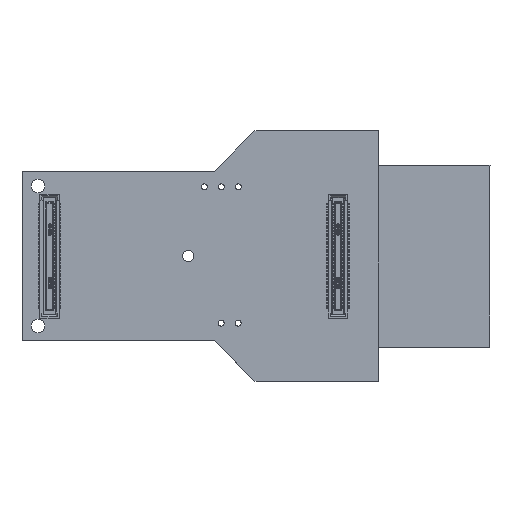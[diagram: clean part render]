
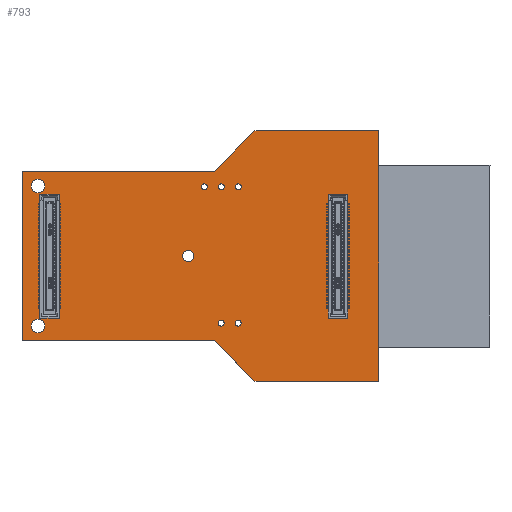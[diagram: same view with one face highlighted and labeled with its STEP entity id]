
A CAD part, top view. The second image highlights one B-rep face of the part: STEP entity #793.
In plain terms, the highlighted planar face has unit normal (0, 0, 1).
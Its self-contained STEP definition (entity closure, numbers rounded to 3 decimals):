
#248 = VERTEX_POINT('',#249);
#249 = CARTESIAN_POINT('',(-53.4,6.05,1.618));
#255 = EDGE_CURVE('',#248,#256,#258,.T.);
#256 = VERTEX_POINT('',#257);
#257 = CARTESIAN_POINT('',(-53.399,31.451,1.618));
#258 = LINE('',#259,#260);
#259 = CARTESIAN_POINT('',(-53.4,6.05,1.618));
#260 = VECTOR('',#261,1.);
#261 = DIRECTION('',(0.,1.,0.));
#286 = EDGE_CURVE('',#256,#287,#289,.T.);
#287 = VERTEX_POINT('',#288);
#288 = CARTESIAN_POINT('',(-24.549,31.451,1.618));
#289 = LINE('',#290,#291);
#290 = CARTESIAN_POINT('',(-53.399,31.451,1.618));
#291 = VECTOR('',#292,1.);
#292 = DIRECTION('',(1.,0.,0.));
#317 = EDGE_CURVE('',#287,#318,#320,.T.);
#318 = VERTEX_POINT('',#319);
#319 = CARTESIAN_POINT('',(-18.5,37.5,1.618));
#320 = LINE('',#321,#322);
#321 = CARTESIAN_POINT('',(-24.549,31.451,1.618));
#322 = VECTOR('',#323,1.);
#323 = DIRECTION('',(0.707,0.707,0.));
#348 = EDGE_CURVE('',#318,#349,#351,.T.);
#349 = VERTEX_POINT('',#350);
#350 = CARTESIAN_POINT('',(0.,37.5,1.618));
#351 = LINE('',#352,#353);
#352 = CARTESIAN_POINT('',(-18.5,37.5,1.618));
#353 = VECTOR('',#354,1.);
#354 = DIRECTION('',(1.,0.,0.));
#379 = EDGE_CURVE('',#349,#380,#382,.T.);
#380 = VERTEX_POINT('',#381);
#381 = CARTESIAN_POINT('',(0.,0.,1.618));
#382 = LINE('',#383,#384);
#383 = CARTESIAN_POINT('',(0.,37.5,1.618));
#384 = VECTOR('',#385,1.);
#385 = DIRECTION('',(0.,-1.,0.));
#410 = EDGE_CURVE('',#380,#411,#413,.T.);
#411 = VERTEX_POINT('',#412);
#412 = CARTESIAN_POINT('',(-18.5,0.,1.618));
#413 = LINE('',#414,#415);
#414 = CARTESIAN_POINT('',(0.,0.,1.618));
#415 = VECTOR('',#416,1.);
#416 = DIRECTION('',(-1.,0.,0.));
#441 = EDGE_CURVE('',#411,#442,#444,.T.);
#442 = VERTEX_POINT('',#443);
#443 = CARTESIAN_POINT('',(-24.55,6.05,1.618));
#444 = LINE('',#445,#446);
#445 = CARTESIAN_POINT('',(-18.5,0.,1.618));
#446 = VECTOR('',#447,1.);
#447 = DIRECTION('',(-0.707,0.707,0.));
#472 = EDGE_CURVE('',#442,#248,#473,.T.);
#473 = LINE('',#474,#475);
#474 = CARTESIAN_POINT('',(-24.55,6.05,1.618));
#475 = VECTOR('',#476,1.);
#476 = DIRECTION('',(-1.,0.,0.));
#496 = VERTEX_POINT('',#497);
#497 = CARTESIAN_POINT('',(-50.,8.25,1.618));
#503 = EDGE_CURVE('',#496,#496,#504,.T.);
#504 = CIRCLE('',#505,1.);
#505 = AXIS2_PLACEMENT_3D('',#506,#507,#508);
#506 = CARTESIAN_POINT('',(-51.,8.25,1.618));
#507 = DIRECTION('',(0.,0.,1.));
#508 = DIRECTION('',(1.,0.,-0.));
#529 = VERTEX_POINT('',#530);
#530 = CARTESIAN_POINT('',(-27.65,18.75,1.618));
#536 = EDGE_CURVE('',#529,#529,#537,.T.);
#537 = CIRCLE('',#538,0.85);
#538 = AXIS2_PLACEMENT_3D('',#539,#540,#541);
#539 = CARTESIAN_POINT('',(-28.5,18.75,1.618));
#540 = DIRECTION('',(0.,0.,1.));
#541 = DIRECTION('',(1.,0.,-0.));
#562 = VERTEX_POINT('',#563);
#563 = CARTESIAN_POINT('',(-50.,29.25,1.618));
#569 = EDGE_CURVE('',#562,#562,#570,.T.);
#570 = CIRCLE('',#571,1.);
#571 = AXIS2_PLACEMENT_3D('',#572,#573,#574);
#572 = CARTESIAN_POINT('',(-51.,29.25,1.618));
#573 = DIRECTION('',(0.,0.,1.));
#574 = DIRECTION('',(1.,0.,-0.));
#595 = VERTEX_POINT('',#596);
#596 = CARTESIAN_POINT('',(-25.63,29.1,1.618));
#602 = EDGE_CURVE('',#595,#595,#603,.T.);
#603 = CIRCLE('',#604,0.45);
#604 = AXIS2_PLACEMENT_3D('',#605,#606,#607);
#605 = CARTESIAN_POINT('',(-26.08,29.1,1.618));
#606 = DIRECTION('',(0.,0.,1.));
#607 = DIRECTION('',(1.,0.,-0.));
#628 = VERTEX_POINT('',#629);
#629 = CARTESIAN_POINT('',(-23.12,8.7,1.618));
#635 = EDGE_CURVE('',#628,#628,#636,.T.);
#636 = CIRCLE('',#637,0.45);
#637 = AXIS2_PLACEMENT_3D('',#638,#639,#640);
#638 = CARTESIAN_POINT('',(-23.57,8.7,1.618));
#639 = DIRECTION('',(0.,0.,1.));
#640 = DIRECTION('',(1.,0.,-0.));
#661 = VERTEX_POINT('',#662);
#662 = CARTESIAN_POINT('',(-20.58,8.7,1.618));
#668 = EDGE_CURVE('',#661,#661,#669,.T.);
#669 = CIRCLE('',#670,0.45);
#670 = AXIS2_PLACEMENT_3D('',#671,#672,#673);
#671 = CARTESIAN_POINT('',(-21.03,8.7,1.618));
#672 = DIRECTION('',(0.,0.,1.));
#673 = DIRECTION('',(1.,0.,-0.));
#694 = VERTEX_POINT('',#695);
#695 = CARTESIAN_POINT('',(-23.09,29.1,1.618));
#701 = EDGE_CURVE('',#694,#694,#702,.T.);
#702 = CIRCLE('',#703,0.45);
#703 = AXIS2_PLACEMENT_3D('',#704,#705,#706);
#704 = CARTESIAN_POINT('',(-23.54,29.1,1.618));
#705 = DIRECTION('',(0.,0.,1.));
#706 = DIRECTION('',(1.,0.,-0.));
#727 = VERTEX_POINT('',#728);
#728 = CARTESIAN_POINT('',(-20.55,29.1,1.618));
#734 = EDGE_CURVE('',#727,#727,#735,.T.);
#735 = CIRCLE('',#736,0.45);
#736 = AXIS2_PLACEMENT_3D('',#737,#738,#739);
#737 = CARTESIAN_POINT('',(-21.,29.1,1.618));
#738 = DIRECTION('',(0.,0.,1.));
#739 = DIRECTION('',(1.,0.,-0.));
#793 = ADVANCED_FACE('',(#794,#804,#807,#810,#813,#816,#819,#822,#825),
  #828,.F.);
#794 = FACE_BOUND('',#795,.F.);
#795 = EDGE_LOOP('',(#796,#797,#798,#799,#800,#801,#802,#803));
#796 = ORIENTED_EDGE('',*,*,#255,.T.);
#797 = ORIENTED_EDGE('',*,*,#286,.T.);
#798 = ORIENTED_EDGE('',*,*,#317,.T.);
#799 = ORIENTED_EDGE('',*,*,#348,.T.);
#800 = ORIENTED_EDGE('',*,*,#379,.T.);
#801 = ORIENTED_EDGE('',*,*,#410,.T.);
#802 = ORIENTED_EDGE('',*,*,#441,.T.);
#803 = ORIENTED_EDGE('',*,*,#472,.T.);
#804 = FACE_BOUND('',#805,.F.);
#805 = EDGE_LOOP('',(#806));
#806 = ORIENTED_EDGE('',*,*,#503,.T.);
#807 = FACE_BOUND('',#808,.F.);
#808 = EDGE_LOOP('',(#809));
#809 = ORIENTED_EDGE('',*,*,#536,.T.);
#810 = FACE_BOUND('',#811,.F.);
#811 = EDGE_LOOP('',(#812));
#812 = ORIENTED_EDGE('',*,*,#569,.T.);
#813 = FACE_BOUND('',#814,.F.);
#814 = EDGE_LOOP('',(#815));
#815 = ORIENTED_EDGE('',*,*,#602,.T.);
#816 = FACE_BOUND('',#817,.F.);
#817 = EDGE_LOOP('',(#818));
#818 = ORIENTED_EDGE('',*,*,#635,.T.);
#819 = FACE_BOUND('',#820,.F.);
#820 = EDGE_LOOP('',(#821));
#821 = ORIENTED_EDGE('',*,*,#668,.T.);
#822 = FACE_BOUND('',#823,.F.);
#823 = EDGE_LOOP('',(#824));
#824 = ORIENTED_EDGE('',*,*,#701,.T.);
#825 = FACE_BOUND('',#826,.F.);
#826 = EDGE_LOOP('',(#827));
#827 = ORIENTED_EDGE('',*,*,#734,.T.);
#828 = PLANE('',#829);
#829 = AXIS2_PLACEMENT_3D('',#830,#831,#832);
#830 = CARTESIAN_POINT('',(-24.702,18.75,1.618));
#831 = DIRECTION('',(-0.,-0.,-1.));
#832 = DIRECTION('',(-1.,0.,0.));
